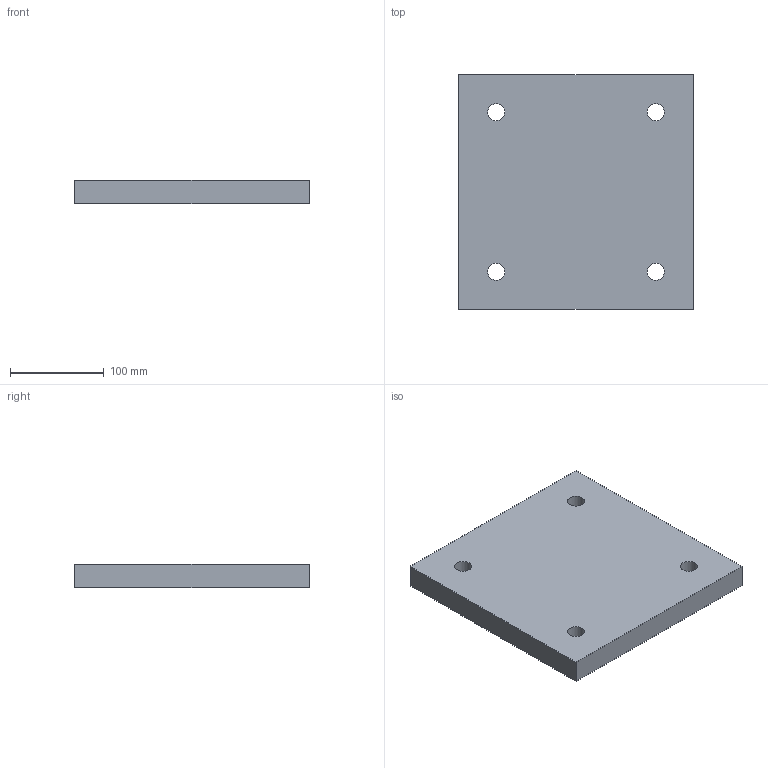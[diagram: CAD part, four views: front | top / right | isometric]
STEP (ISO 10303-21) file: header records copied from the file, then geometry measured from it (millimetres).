
FILE_DESCRIPTION(('Open CASCADE Model'),'2;1');
FILE_NAME('Open CASCADE Shape Model','2026-10-19T10:09:19',('Author'),( 'Open CASCADE'),'Open CASCADE STEP processor 8.0','Open CASCADE 8.0' ,'Unknown');
FILE_SCHEMA(('AUTOMOTIVE_DESIGN { 1 0 10303 214 1 1 1 1 }'));
Length unit declared in the file: millimetre
Products named in the file (1): BASE_TOLVA_250x250x25 23
Bounding box: 250 x 250 x 25 mm (x, y, z)
Volume: 1537053.1 mm3; surface area: 153619.1 mm2
Topology: 1 solids, 1 shells, 10 faces, 24 edges, 16 vertices
Faces by surface type: plane 6, cylinder 4
Full cylindrical faces by diameter (mm): 18 x4
Entity records: 658 total; most frequent: CARTESIAN_POINT 147, DIRECTION 94, LINE 56, VECTOR 56, ORIENTED_EDGE 48, PCURVE 48, DEFINITIONAL_REPRESENTATION 48, EDGE_CURVE 24
